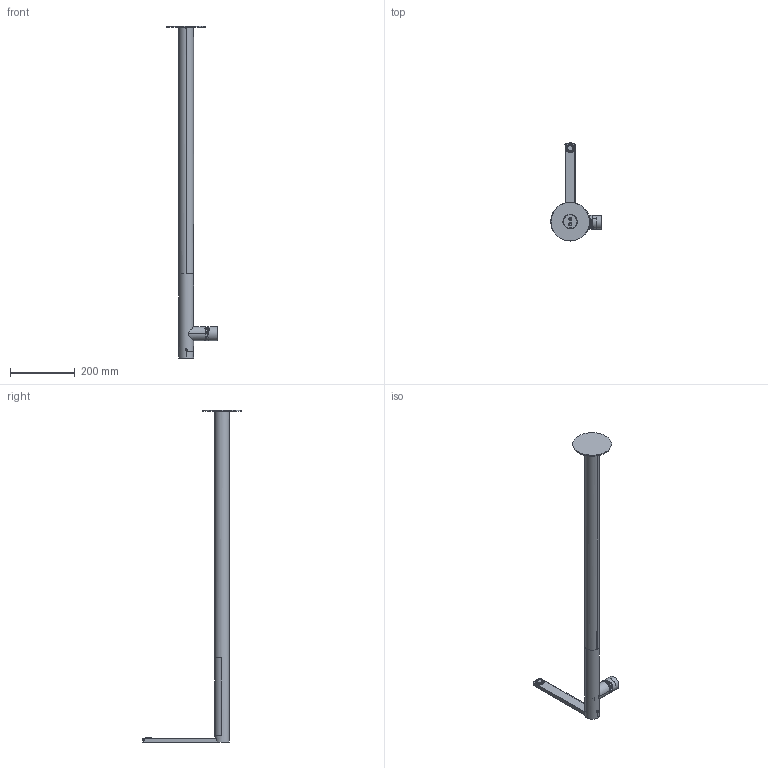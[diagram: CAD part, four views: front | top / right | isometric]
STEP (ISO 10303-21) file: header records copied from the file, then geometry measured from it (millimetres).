
FILE_DESCRIPTION((''),'2;1');
FILE_NAME('8959521_SW0001','2020-06-18T09:56:44',('carloff'),(''),'CREO PARAMETRIC BY PTC INC, 2018100','CREO PARAMETRIC BY PTC INC, 2018100','');
FILE_SCHEMA(('CONFIG_CONTROL_DESIGN'));
Products named in the file (1): 8959521_SW0001
Bounding box: 155.6 x 304.85 x 1025 mm (x, y, z)
Volume: 473731.6 mm3; surface area: 363126.5 mm2
Topology: 2 solids, 2 shells, 3256 faces, 8529 edges, 5657 vertices
Faces by surface type: plane 2555, cone 482, cylinder 185, torus 14, bspline 10, sphere 10
Entity records: 118953 total; most frequent: CARTESIAN_POINT 48126, ORIENTED_EDGE 17042, DIRECTION 10497, EDGE_CURVE 8521, VERTEX_POINT 5657, B_SPLINE_CURVE_WITH_KNOTS 5052, AXIS2_PLACEMENT_3D 3782, EDGE_LOOP 3658
